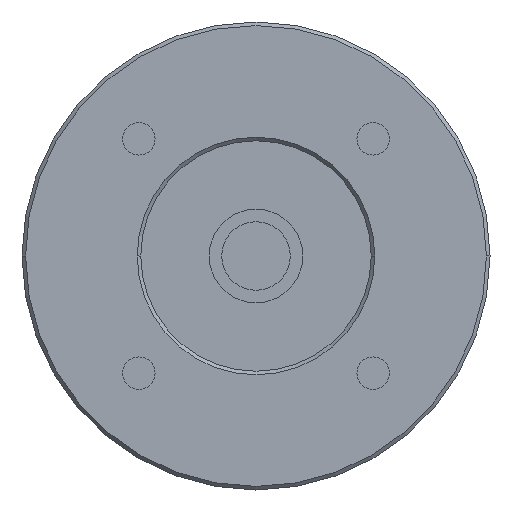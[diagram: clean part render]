
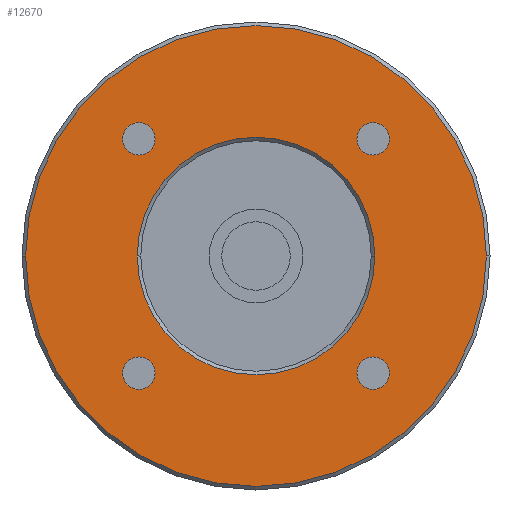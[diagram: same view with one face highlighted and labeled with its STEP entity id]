
A CAD part, left-side view. The second image highlights one B-rep face of the part: STEP entity #12670.
In plain terms, the highlighted planar face has unit normal (-1, 0, 0) as drawn and (0, 0, -1) by its records, which use the part's own axes.
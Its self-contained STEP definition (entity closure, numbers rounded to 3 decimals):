
#11350=CARTESIAN_POINT('',(-16.263,-14.013,-35.));
#11360=VERTEX_POINT('',#11350);
#11390=CARTESIAN_POINT('',(-16.263,-16.263,-35.));
#11400=DIRECTION('',(0.,0.,-1.));
#11410=DIRECTION('',(1.,0.,0.));
#11420=AXIS2_PLACEMENT_3D('',#11390,#11400,#11410);
#11430=CIRCLE('',#11420,2.25);
#11440=CARTESIAN_POINT('',(-16.263,-18.513,-35.));
#11450=VERTEX_POINT('',#11440);
#11460=EDGE_CURVE('',#11450,#11360,#11430,.T.);
#11580=CARTESIAN_POINT('',(0.,0.,
-35.));
#11590=DIRECTION('',(0.,0.,-1.));
#11600=DIRECTION('',(0.,-1.,0.));
#11610=AXIS2_PLACEMENT_3D('',#11580,#11590,#11600);
#11620=PLANE('',#11610);
#11630=CARTESIAN_POINT('',(-14.013,-16.263,-35.));
#11640=VERTEX_POINT('',#11630);
#11650=EDGE_CURVE('',#11640,#11450,#11430,.T.);
#11660=ORIENTED_EDGE('',*,*,#11650,.F.);
#11670=ORIENTED_EDGE('',*,*,#11460,.F.);
#11680=EDGE_CURVE('',#11360,#11640,#11430,.T.);
#11690=ORIENTED_EDGE('',*,*,#11680,.F.);
#11700=EDGE_LOOP('',(#11690,#11670,#11660));
#11710=FACE_BOUND('',#11700,.T.);
#11720=CARTESIAN_POINT('',(-16.263,16.263,-35.));
#11730=DIRECTION('',(0.,0.,-1.));
#11740=DIRECTION('',(1.,0.,0.));
#11750=AXIS2_PLACEMENT_3D('',#11720,#11730,#11740);
#11760=CIRCLE('',#11750,2.25);
#11770=CARTESIAN_POINT('',(-14.013,16.263,-35.));
#11780=VERTEX_POINT('',#11770);
#11790=CARTESIAN_POINT('',(-16.263,14.013,-35.));
#11800=VERTEX_POINT('',#11790);
#11810=EDGE_CURVE('',#11780,#11800,#11760,.T.);
#11820=ORIENTED_EDGE('',*,*,#11810,.F.);
#11830=CARTESIAN_POINT('',(-16.263,18.513,-35.));
#11840=VERTEX_POINT('',#11830);
#11850=EDGE_CURVE('',#11800,#11840,#11760,.T.);
#11860=ORIENTED_EDGE('',*,*,#11850,.F.);
#11870=EDGE_CURVE('',#11840,#11780,#11760,.T.);
#11880=ORIENTED_EDGE('',*,*,#11870,.F.);
#11890=EDGE_LOOP('',(#11880,#11860,#11820));
#11900=FACE_BOUND('',#11890,.T.);
#11910=CARTESIAN_POINT('',(16.263,16.263,-35.));
#11920=DIRECTION('',(0.,0.,-1.));
#11930=DIRECTION('',(1.,0.,0.));
#11940=AXIS2_PLACEMENT_3D('',#11910,#11920,#11930);
#11950=CIRCLE('',#11940,2.25);
#11960=CARTESIAN_POINT('',(18.513,16.263,-35.));
#11970=VERTEX_POINT('',#11960);
#11980=CARTESIAN_POINT('',(16.263,14.013,-35.));
#11990=VERTEX_POINT('',#11980);
#12000=EDGE_CURVE('',#11970,#11990,#11950,.T.);
#12010=ORIENTED_EDGE('',*,*,#12000,.F.);
#12020=CARTESIAN_POINT('',(16.263,18.513,-35.));
#12030=VERTEX_POINT('',#12020);
#12040=EDGE_CURVE('',#11990,#12030,#11950,.T.);
#12050=ORIENTED_EDGE('',*,*,#12040,.F.);
#12060=EDGE_CURVE('',#12030,#11970,#11950,.T.);
#12070=ORIENTED_EDGE('',*,*,#12060,.F.);
#12080=EDGE_LOOP('',(#12070,#12050,#12010));
#12090=FACE_BOUND('',#12080,.T.);
#12100=CARTESIAN_POINT('',(16.263,-16.263,-35.));
#12110=DIRECTION('',(0.,0.,-1.));
#12120=DIRECTION('',(1.,0.,0.));
#12130=AXIS2_PLACEMENT_3D('',#12100,#12110,#12120);
#12140=CIRCLE('',#12130,2.25);
#12150=CARTESIAN_POINT('',(18.513,-16.263,-35.));
#12160=VERTEX_POINT('',#12150);
#12170=CARTESIAN_POINT('',(16.263,-18.513,-35.));
#12180=VERTEX_POINT('',#12170);
#12190=EDGE_CURVE('',#12160,#12180,#12140,.T.);
#12200=ORIENTED_EDGE('',*,*,#12190,.F.);
#12210=CARTESIAN_POINT('',(16.263,-14.013,-35.));
#12220=VERTEX_POINT('',#12210);
#12230=EDGE_CURVE('',#12180,#12220,#12140,.T.);
#12240=ORIENTED_EDGE('',*,*,#12230,.F.);
#12250=EDGE_CURVE('',#12220,#12160,#12140,.T.);
#12260=ORIENTED_EDGE('',*,*,#12250,.F.);
#12270=EDGE_LOOP('',(#12260,#12240,#12200));
#12280=FACE_BOUND('',#12270,.T.);
#12290=CARTESIAN_POINT('',(0.,0.,
-35.));
#12300=DIRECTION('',(0.,0.,-1.));
#12310=DIRECTION('',(0.,-1.,0.));
#12320=AXIS2_PLACEMENT_3D('',#12290,#12300,#12310);
#12330=CIRCLE('',#12320,32.);
#12340=CARTESIAN_POINT('',(-32.,0.,-35.));
#12350=VERTEX_POINT('',#12340);
#12360=CARTESIAN_POINT('',(32.,0.,-35.));
#12370=VERTEX_POINT('',#12360);
#12380=EDGE_CURVE('',#12350,#12370,#12330,.T.);
#12390=ORIENTED_EDGE('',*,*,#12380,.T.);
#12400=CARTESIAN_POINT('',(0.,-32.,-35.));
#12410=VERTEX_POINT('',#12400);
#12420=EDGE_CURVE('',#12410,#12350,#12330,.T.);
#12430=ORIENTED_EDGE('',*,*,#12420,.T.);
#12440=EDGE_CURVE('',#12370,#12410,#12330,.T.);
#12450=ORIENTED_EDGE('',*,*,#12440,.T.);
#12460=EDGE_LOOP('',(#12450,#12430,#12390));
#12470=FACE_OUTER_BOUND('',#12460,.T.);
#12480=CARTESIAN_POINT('',(0.,0.,
-35.));
#12490=DIRECTION('',(0.,0.,-1.));
#12500=DIRECTION('',(0.,-1.,0.));
#12510=AXIS2_PLACEMENT_3D('',#12480,#12490,#12500);
#12520=CIRCLE('',#12510,16.5);
#12530=CARTESIAN_POINT('',(0.,-16.5,-35.));
#12540=VERTEX_POINT('',#12530);
#12550=CARTESIAN_POINT('',(-16.5,0.,-35.));
#12560=VERTEX_POINT('',#12550);
#12570=EDGE_CURVE('',#12540,#12560,#12520,.T.);
#12580=ORIENTED_EDGE('',*,*,#12570,.F.);
#12590=CARTESIAN_POINT('',(16.5,0.,-35.));
#12600=VERTEX_POINT('',#12590);
#12610=EDGE_CURVE('',#12560,#12600,#12520,.T.);
#12620=ORIENTED_EDGE('',*,*,#12610,.F.);
#12630=EDGE_CURVE('',#12600,#12540,#12520,.T.);
#12640=ORIENTED_EDGE('',*,*,#12630,.F.);
#12650=EDGE_LOOP('',(#12640,#12620,#12580));
#12660=FACE_BOUND('',#12650,.T.);
#12670=ADVANCED_FACE('',(#11710,#11900,#12090,#12280,#12470,#12660),
#11620,.T.);
